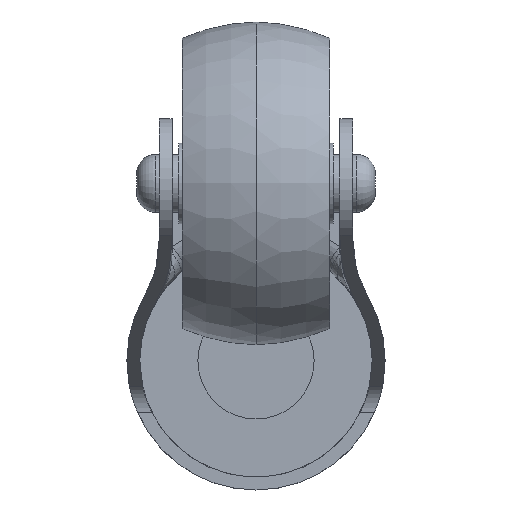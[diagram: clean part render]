
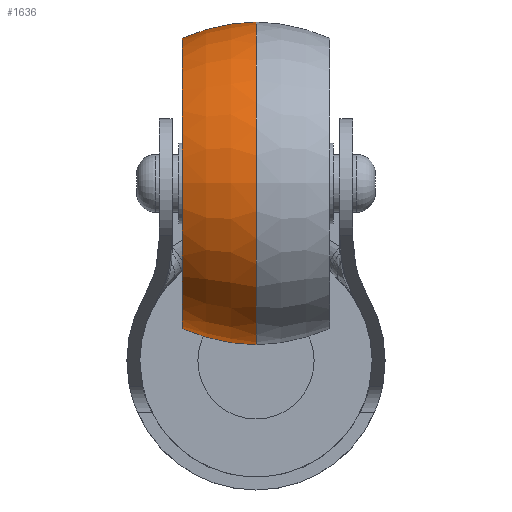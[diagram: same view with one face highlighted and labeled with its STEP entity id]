
A CAD part, front view. The second image highlights one B-rep face of the part: STEP entity #1636.
In plain terms, the highlighted toroidal (fillet/blend) face has major radius 4.994 mm and minor radius 30 mm.
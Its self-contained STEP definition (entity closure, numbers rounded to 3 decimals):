
#11 = DIRECTION ( 'NONE',  ( -1., 0., 0. ) ) ;
#21 = CIRCLE ( 'NONE', #2095, 30. ) ;
#55 = DIRECTION ( 'NONE',  ( 0., 0., -1. ) ) ;
#75 = EDGE_CURVE ( 'NONE', #3122, #1919, #2462, .T. ) ;
#116 = CIRCLE ( 'NONE', #415, 25. ) ;
#136 = EDGE_CURVE ( 'NONE', #2954, #338, #21, .T. ) ;
#242 = CARTESIAN_POINT ( 'NONE',  ( -11.4, -30., 50. ) ) ;
#338 = VERTEX_POINT ( 'NONE', #2330 ) ;
#350 = DIRECTION ( 'NONE',  ( 0., 1., 0. ) ) ;
#415 = AXIS2_PLACEMENT_3D ( 'NONE', #2239, #1688, #2575 ) ;
#666 = DIRECTION ( 'NONE',  ( 0., 0., 1. ) ) ;
#864 = AXIS2_PLACEMENT_3D ( 'NONE', #3465, #350, #2310 ) ;
#886 = CARTESIAN_POINT ( 'NONE',  ( 0.603, -30., 32.494 ) ) ;
#972 = FACE_OUTER_BOUND ( 'NONE', #1577, .T. ) ;
#1037 = EDGE_CURVE ( 'NONE', #2954, #3122, #3174, .T. ) ;
#1098 = CARTESIAN_POINT ( 'NONE',  ( 0., -30., 52.5 ) ) ;
#1197 = DIRECTION ( 'NONE',  ( 0., -1., 0. ) ) ;
#1577 = EDGE_LOOP ( 'NONE', ( #3475, #3276, #2425, #3518 ) ) ;
#1633 = CARTESIAN_POINT ( 'NONE',  ( -11.4, -30., 5. ) ) ;
#1636 = ADVANCED_FACE ( 'NONE', ( #972 ), #1756, .T. ) ;
#1688 = DIRECTION ( 'NONE',  ( -1., 0., 0. ) ) ;
#1756 = TOROIDAL_SURFACE ( 'NONE', #2997, -4.994, 30. ) ;
#1919 = VERTEX_POINT ( 'NONE', #1098 ) ;
#2095 = AXIS2_PLACEMENT_3D ( 'NONE', #886, #1197, #55 ) ;
#2239 = CARTESIAN_POINT ( 'NONE',  ( 0., -30., 27.5 ) ) ;
#2306 = CARTESIAN_POINT ( 'NONE',  ( 0.603, -30., 27.5 ) ) ;
#2310 = DIRECTION ( 'NONE',  ( 0., 0., 1. ) ) ;
#2324 = DIRECTION ( 'NONE',  ( 0., 0., 1. ) ) ;
#2330 = CARTESIAN_POINT ( 'NONE',  ( 0., -30., 2.5 ) ) ;
#2425 = ORIENTED_EDGE ( 'NONE', *, *, #3058, .T. ) ;
#2462 = CIRCLE ( 'NONE', #864, 30. ) ;
#2575 = DIRECTION ( 'NONE',  ( 0., 0., 1. ) ) ;
#2942 = AXIS2_PLACEMENT_3D ( 'NONE', #3472, #11, #666 ) ;
#2954 = VERTEX_POINT ( 'NONE', #1633 ) ;
#2997 = AXIS2_PLACEMENT_3D ( 'NONE', #2306, #3444, #2324 ) ;
#3058 = EDGE_CURVE ( 'NONE', #338, #1919, #116, .T. ) ;
#3122 = VERTEX_POINT ( 'NONE', #242 ) ;
#3174 = CIRCLE ( 'NONE', #2942, 22.5 ) ;
#3276 = ORIENTED_EDGE ( 'NONE', *, *, #136, .T. ) ;
#3444 = DIRECTION ( 'NONE',  ( 1., 0., 0. ) ) ;
#3465 = CARTESIAN_POINT ( 'NONE',  ( 0.603, -30., 22.506 ) ) ;
#3472 = CARTESIAN_POINT ( 'NONE',  ( -11.4, -30., 27.5 ) ) ;
#3475 = ORIENTED_EDGE ( 'NONE', *, *, #1037, .F. ) ;
#3518 = ORIENTED_EDGE ( 'NONE', *, *, #75, .F. ) ;
